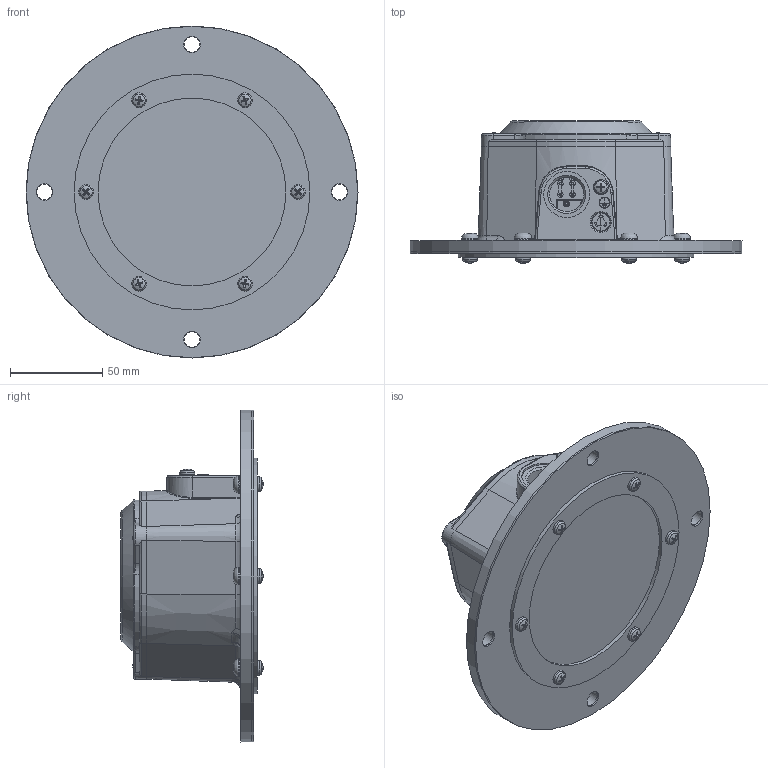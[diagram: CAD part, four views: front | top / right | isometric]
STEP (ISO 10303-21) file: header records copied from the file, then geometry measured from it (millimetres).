
FILE_DESCRIPTION(/* description */ ('MN21'),/* implementation_level */ '2;1');
FILE_NAME(/* name */ 'MN21_Semplificato.stp',/* time_stamp */ '2023-11-02T11:28:14+01:00',/* author */ ('Stefano Padovani'),/* organization */ ('CAMLogic Srl'),/* preprocessor_version */ 'ST-DEVELOPER v20',/* originating_system */ 'Autodesk Inventor 2024',/* authorisation */ '');
FILE_SCHEMA (('AUTOMOTIVE_DESIGN { 1 0 10303 214 3 1 1 }'));
Products named in the file (1): MN21_Semplificato
Bounding box: 180.21 x 77.17 x 180.21 mm (x, y, z)
Volume: 341604.9 mm3; surface area: 130725.4 mm2
Topology: 4 solids, 4 shells, 1472 faces, 3861 edges, 2421 vertices
Faces by surface type: plane 422, cylinder 377, bspline 223, cone 213, torus 207, sphere 30
Full cylindrical faces by diameter (mm): 1.3 x2, 1.5 x22, 1.6 x2, 2 x2, 2.3 x1, 2.5 x2, 3.3 x7, 4 x1, 4.5 x1, 4.65 x1, 5.2 x1, 5.5 x1, 6 x1, 8.5 x5, 9 x8, 9.167 x1, 10 x4, 10.5 x1, 10.8 x3, 18.7 x1, 25 x1, 82 x1, 88 x1, 102 x1, 125 x1, 128 x1, 180 x1
Entity records: 68524 total; most frequent: CARTESIAN_POINT 32238, ORIENTED_EDGE 7652, DIRECTION 6863, EDGE_CURVE 3826, AXIS2_PLACEMENT_3D 2764, VERTEX_POINT 2421, EDGE_LOOP 1629, FACE_OUTER_BOUND 1472
